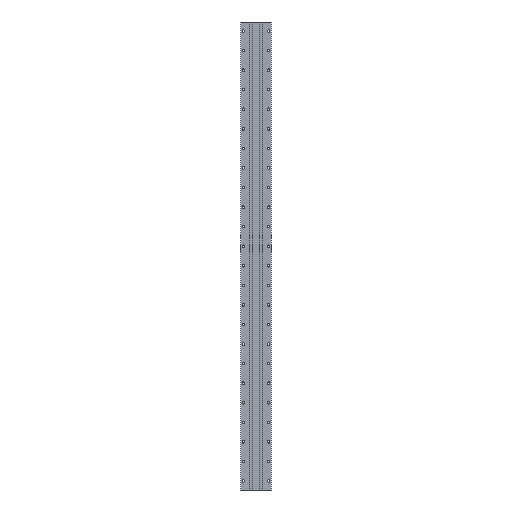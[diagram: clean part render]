
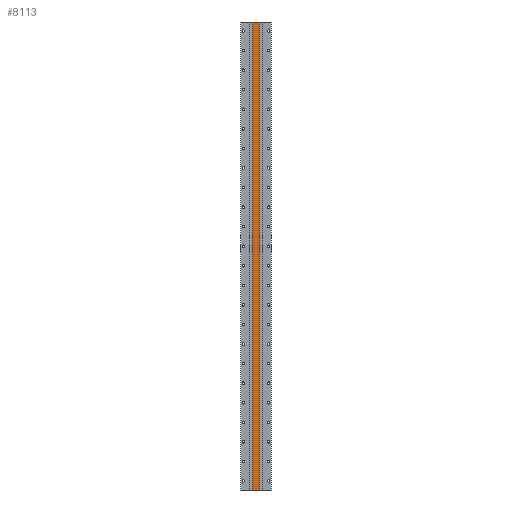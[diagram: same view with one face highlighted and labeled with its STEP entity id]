
A CAD part, front view. The second image highlights one B-rep face of the part: STEP entity #8113.
In plain terms, the highlighted planar face has unit normal (0, -1, 0).
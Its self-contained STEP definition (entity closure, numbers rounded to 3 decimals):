
#3862 = CARTESIAN_POINT ( 'NONE',  ( 9.25, 0., -598. ) ) ;
#3863 = DIRECTION ( 'NONE',  ( 0., 0., 1. ) ) ;
#3864 = VECTOR ( 'NONE', #3863, 1000. ) ;
#3865 = CARTESIAN_POINT ( 'NONE',  ( 9.25, 0., -598. ) ) ;
#3866 = LINE ( 'NONE', #3865, #3864 ) ;
#3867 = CARTESIAN_POINT ( 'NONE',  ( 9.25, 0., 598. ) ) ;
#3941 = CARTESIAN_POINT ( 'NONE',  ( -9.25, 0., 598. ) ) ;
#3942 = DIRECTION ( 'NONE',  ( 1., 0., 0. ) ) ;
#3943 = VECTOR ( 'NONE', #3942, 1000. ) ;
#3944 = CARTESIAN_POINT ( 'NONE',  ( -9.25, 0., 598. ) ) ;
#3945 = LINE ( 'NONE', #3944, #3943 ) ;
#3946 = DIRECTION ( 'NONE',  ( 0., 0., -1. ) ) ;
#3947 = DIRECTION ( 'NONE',  ( 0., -1., 0. ) ) ;
#3948 = CARTESIAN_POINT ( 'NONE',  ( -9.25, 0., -598. ) ) ;
#3949 = AXIS2_PLACEMENT_3D ( 'NONE', #3948, #3947, #3946 ) ;
#3950 = PLANE ( 'NONE',  #3949 ) ;
#3951 = FACE_OUTER_BOUND ( 'NONE', #8114, .T. ) ;
#3997 = DIRECTION ( 'NONE',  ( 1., 0., 0. ) ) ;
#3998 = VECTOR ( 'NONE', #3997, 1000. ) ;
#3999 = CARTESIAN_POINT ( 'NONE',  ( -9.25, 0., -598. ) ) ;
#4000 = LINE ( 'NONE', #3999, #3998 ) ;
#4001 = CARTESIAN_POINT ( 'NONE',  ( -9.25, 0., -598. ) ) ;
#4002 = DIRECTION ( 'NONE',  ( 0., 0., 1. ) ) ;
#4003 = VECTOR ( 'NONE', #4002, 1000. ) ;
#4004 = CARTESIAN_POINT ( 'NONE',  ( -9.25, 0., -598. ) ) ;
#4005 = LINE ( 'NONE', #4004, #4003 ) ;
#8053 = VERTEX_POINT ( 'NONE', #3867 ) ;
#8055 = EDGE_CURVE ( 'NONE', #8056, #8053, #3866, .T. ) ;
#8056 = VERTEX_POINT ( 'NONE', #3862 ) ;
#8113 = ADVANCED_FACE ( 'NONE', ( #3951 ), #3950, .T. ) ;
#8114 = EDGE_LOOP ( 'NONE', ( #8115, #8118, #8121, #8123 ) ) ;
#8115 = ORIENTED_EDGE ( 'NONE', *, *, #8116, .F. ) ;
#8116 = EDGE_CURVE ( 'NONE', #8117, #8053, #3945, .T. ) ;
#8117 = VERTEX_POINT ( 'NONE', #3941 ) ;
#8118 = ORIENTED_EDGE ( 'NONE', *, *, #8119, .F. ) ;
#8119 = EDGE_CURVE ( 'NONE', #8120, #8117, #4005, .T. ) ;
#8120 = VERTEX_POINT ( 'NONE', #4001 ) ;
#8121 = ORIENTED_EDGE ( 'NONE', *, *, #8122, .T. ) ;
#8122 = EDGE_CURVE ( 'NONE', #8120, #8056, #4000, .T. ) ;
#8123 = ORIENTED_EDGE ( 'NONE', *, *, #8055, .T. ) ;
